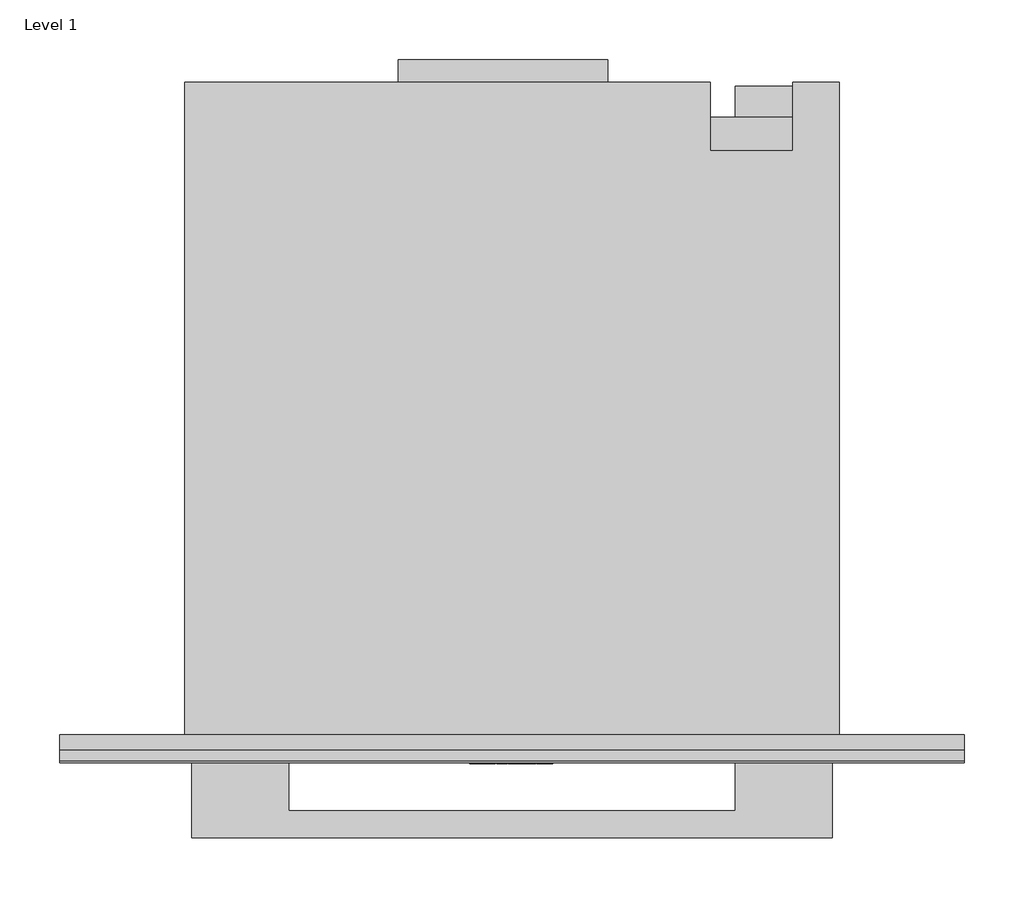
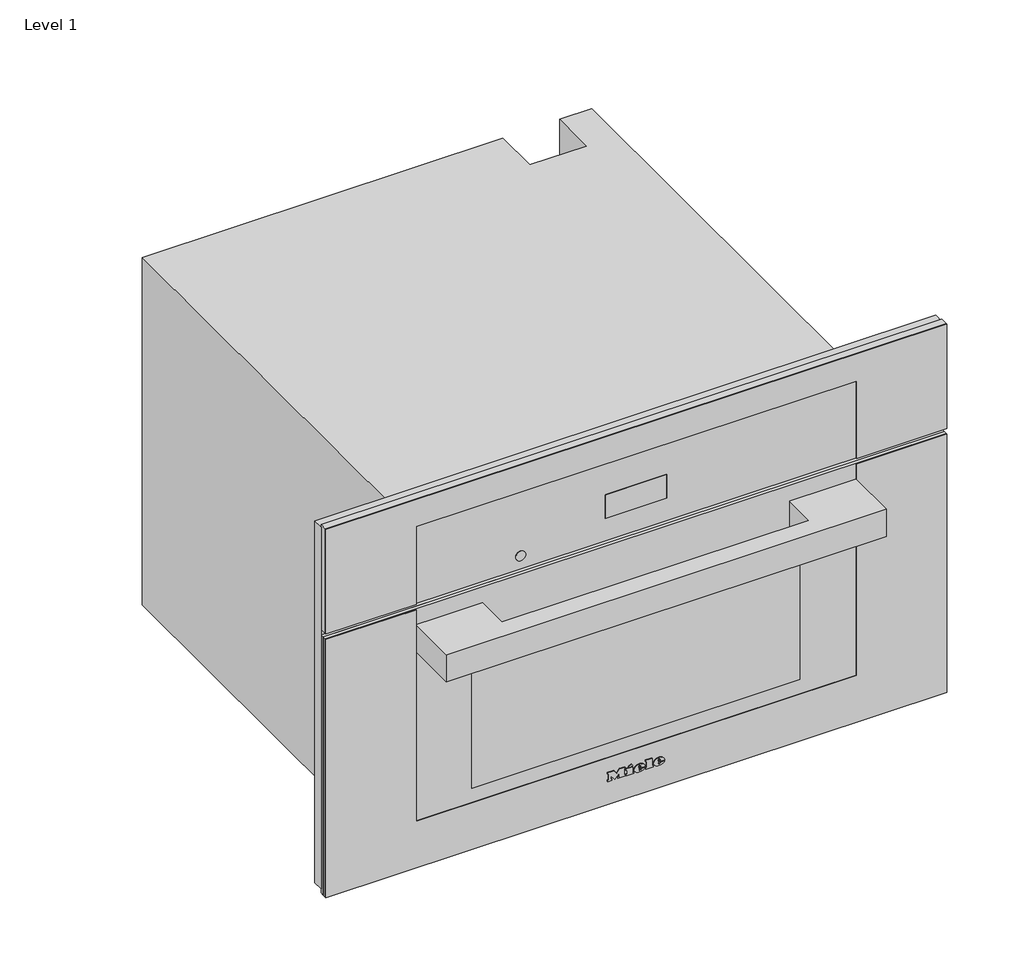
# One storey: 1 proxy.
"""IFC4 building model written with IfcOpenShell, lengths in millimetres."""

from ifc_helpers import new_model, si_unit, origin, place, context, project, spatial, transform, mapped, element, save
from components import specialty_equipment_e0a83f77

model = new_model("IFC4")

# Units and contexts
model_context = context("Model", 3, world=origin())
ifc_project = project(units=[si_unit("LENGTHUNIT", "METRE", prefix="MILLI")], contexts=[model_context])

# Site, building, storey
site = spatial("IfcSite", under=ifc_project)
building = spatial("IfcBuilding", under=site)
storey = spatial("IfcBuildingStorey", under=building, Name="Level 1", Elevation=0.0)

# Proxy
placement = place(None, origin())
specialty_equipment_shape = specialty_equipment_e0a83f77(model_context)
element("IfcBuildingElementProxy", 1, Name="11875800_USA_DGC7370_EDST-CLST : 23737042_USA_11875800_DGC7370_EDST-CLST", ObjectType="11875800_USA_DGC7370_EDST-CLST : 23737042_USA_11875800_DGC7370_EDST-CLST", at=placement, inside=storey, context=model_context, shape_type="MappedRepresentation", body=[
    mapped(specialty_equipment_shape, transform((0.0, 0.0, 0.0), x_axis=(1.0, 0.0, 0.0), y_axis=(0.0, 1.0, 0.0), z_axis=(0.0, 0.0, 1.0))),
])

save(model, "model.ifc")
